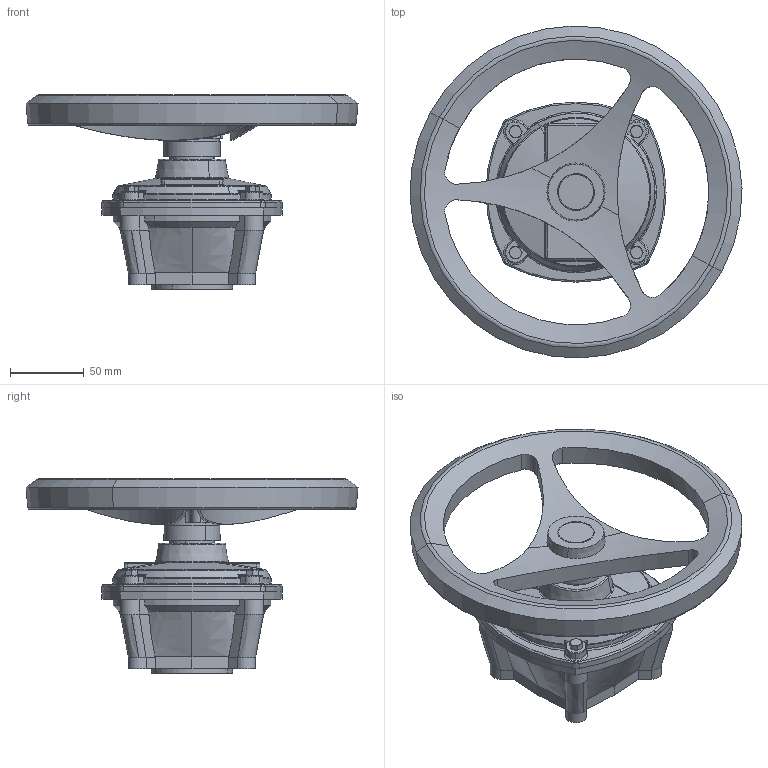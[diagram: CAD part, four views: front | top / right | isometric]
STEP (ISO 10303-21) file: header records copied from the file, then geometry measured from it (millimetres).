
FILE_DESCRIPTION(('CATIA V5 STEP Exchange'),'2;1');
FILE_NAME('K:\DONNEES RECUES\A - En cours de traitement\TP BTS CPI\20081218 TP BTS CPI - Francis Dussol CABANIS\ma25.stp','2009-01-21T10:01:18+00:00',('none'),('none'),'CATIA Version 5 Release 17 (IN-10)','CATIA V5 STEP AP203','none');
FILE_SCHEMA(('CONFIG_CONTROL_DESIGN'));
Length unit declared in the file: millimetre
Products named in the file (4): Réducteur MA25; Ensemble volant; Ensemble entraineur; carter
Assembly tree (23 placements, depth 3):
  Réducteur MA25
    Ensemble volant
      #62
      #606
      #714
      #2000
      #2199
      #7830
    #8409
    #11846
    Ensemble entraineur
      #15489
      #17020
      #17128
      #18537
    carter
      #23810
      #46435
      #70033
      #71670  x4
      #72238
Bounding box: 224.94 x 224.94 x 131.59 mm (x, y, z)
Volume: 518271.8 mm3; surface area: 320409.3 mm2
Topology: 26 solids, 26 shells, 1901 faces, 5082 edges, 3261 vertices
Faces by surface type: cylinder 796, plane 489, bspline 240, cone 199, torus 144, revolution 29, sphere 4
Entity records: 72300 total; most frequent: CARTESIAN_POINT 31191, ORIENTED_EDGE 9836, DIRECTION 5932, EDGE_CURVE 4918, VERTEX_POINT 3165, AXIS2_PLACEMENT_3D 3011, EDGE_LOOP 1957, CIRCLE 1879
